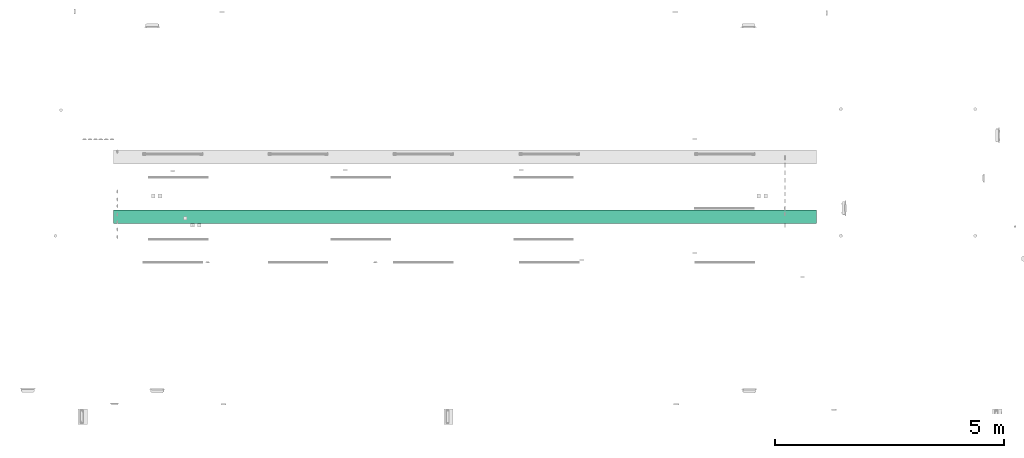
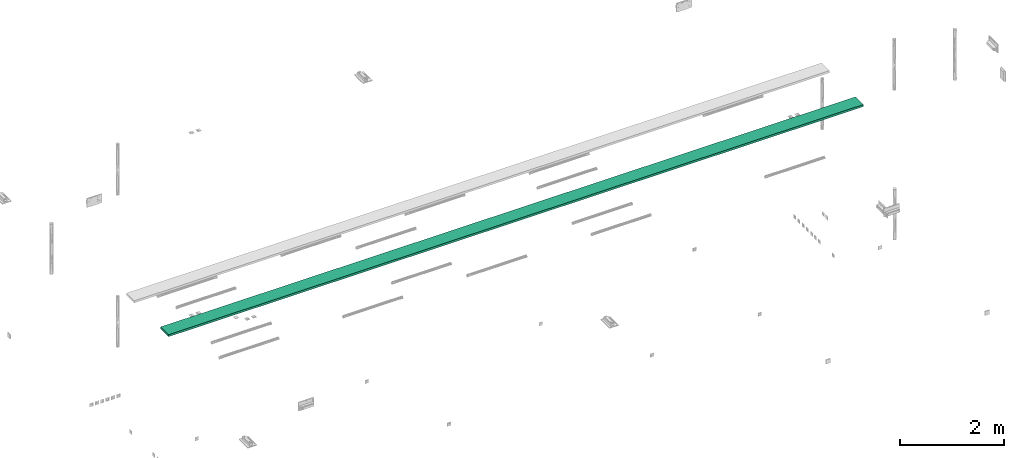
# One storey, part 2 of 146: 1 flow segment.
"""IFC2X3 building model written with IfcOpenShell, lengths in metres."""

import ifcopenshell
import ifcopenshell.guid

model = None  # the IFC model being written
_history = None  # IfcOwnerHistory: only IFC2X3 demands one
_inside = {}  # id of a spatial element -> (the spatial element, [elements in it])
_under = {}  # id of a project, library or spatial element -> (it, [spatial elements below it])
_declared = {}  # id of a project -> (the project, [libraries it declares])
_typed = {}  # id of a type object -> (the type object, [elements of that type])
_made_of = {}  # id of a material, layer set ... -> (it, [elements and type objects made of it])


def new_model(schema):
    """Start an empty IFC model of exactly this schema.

    Asked for "IFC4X3", IfcOpenShell would pick the latest addendum, in which some entities
    have other attributes; the version numbers below select the first issue.
    IFC2X3 requires an IfcOwnerHistory on every rooted entity: one is made here for all.
    """
    global model, _history
    if schema == "IFC4X3":
        model = ifcopenshell.file(schema_version=(4, 3, 0, 0))
    else:
        model = ifcopenshell.file(schema=schema)
    _inside.clear()
    _under.clear()
    _declared.clear()
    _typed.clear()
    _made_of.clear()
    _history = None
    if model.schema == "IFC2X3":
        org = make("IfcOrganization", Name="unknown")
        user = make(
            "IfcPersonAndOrganization",
            ThePerson=make("IfcPerson", FamilyName="unknown"),
            TheOrganization=org,
        )
        app = make(
            "IfcApplication",
            ApplicationDeveloper=org,
            Version="unknown",
            ApplicationFullName="unknown",
            ApplicationIdentifier="unknown",
        )
        _history = make(
            "IfcOwnerHistory",
            OwningUser=user,
            OwningApplication=app,
            ChangeAction="ADDED",
            CreationDate=0,
        )
    return model


def make(cls, **values):
    """One entity of the class cls with the attributes given. An attribute that is None is left unset."""
    return model.create_entity(
        cls, **{name: value for name, value in values.items() if value is not None}
    )


def entity(cls, *values):
    """Any entity or typed value of the class cls, its attributes in the order of the schema. None: left unset."""
    e = model.create_entity(cls)
    for i, value in enumerate(values):
        if value is not None:
            e[i] = value
    return e


def rooted(cls, **values):
    """An entity with a GlobalId (a new one), such as an element, a storey or a relation."""
    return make(cls, GlobalId=ifcopenshell.guid.new(), OwnerHistory=_history, **values)


def si_unit(unit_type, name, prefix=None):
    """IfcSIUnit, for example si_unit("LENGTHUNIT", "METRE", prefix="MILLI")."""
    return make("IfcSIUnit", UnitType=unit_type, Prefix=prefix, Name=name)


def converted_unit(unit_type, name, factor, base, dimensions=None, offset=None):
    """IfcConversionBasedUnit, such as the inch: factor (a typed value) times the base unit."""
    return make(
        "IfcConversionBasedUnit"
        if offset is None
        else "IfcConversionBasedUnitWithOffset",
        ConversionOffset=offset,
        Dimensions=None
        if dimensions is None
        else entity("IfcDimensionalExponents", *dimensions),
        UnitType=unit_type,
        Name=name,
        ConversionFactor=make(
            "IfcMeasureWithUnit", ValueComponent=factor, UnitComponent=base
        ),
    )


def derived_unit(unit_type, elements):
    """IfcDerivedUnit: a product of units, each with its exponent."""
    return make(
        "IfcDerivedUnit",
        Elements=[
            make("IfcDerivedUnitElement", Unit=unit, Exponent=power)
            for unit, power in elements
        ],
        UnitType=unit_type,
    )


def assignment(units):
    """IfcUnitAssignment: the units of a project."""
    return None if units is None else make("IfcUnitAssignment", Units=units)


def point(xyz):
    """IfcCartesianPoint."""
    return None if xyz is None else make("IfcCartesianPoint", Coordinates=xyz)


def direction(xyz):
    """IfcDirection."""
    return None if xyz is None else make("IfcDirection", DirectionRatios=xyz)


def frame(location, z_axis=None, x_axis=None):
    """IfcAxis2Placement3D, a coordinate frame: its origin and axes. An axis left out is left unset."""
    return make(
        "IfcAxis2Placement3D",
        Location=point(location),
        Axis=direction(z_axis),
        RefDirection=direction(x_axis),
    )


def frame_2d(location, x_axis=None):
    """IfcAxis2Placement2D, a coordinate frame in the plane: its origin and x axis."""
    return make(
        "IfcAxis2Placement2D", Location=point(location), RefDirection=direction(x_axis)
    )


def origin():
    """The frame at (0, 0, 0) with its axes left unset."""
    return frame((0.0, 0.0, 0.0))


def origin_2d_with_axis():
    """The frame at (0, 0) in the plane with the x axis (1, 0) written out."""
    return frame_2d((0.0, 0.0), x_axis=(1.0, 0.0))


def place(relative_to, where):
    """IfcLocalPlacement: puts the frame where relative to a parent placement (None: the world)."""
    return make(
        "IfcLocalPlacement", PlacementRelTo=relative_to, RelativePlacement=where
    )


def context(
    kind, dimensions, precision=None, world=None, true_north=None, identifier=None
):
    """IfcGeometricRepresentationContext, for example the 3D "Model" context."""
    return make(
        "IfcGeometricRepresentationContext",
        ContextIdentifier=identifier,
        ContextType=kind,
        CoordinateSpaceDimension=dimensions,
        Precision=precision,
        WorldCoordinateSystem=world,
        TrueNorth=true_north,
    )


def subcontext(parent, identifier, kind, view, scale=None):
    """IfcGeometricRepresentationSubContext, for example "Body" below "Model"."""
    return make(
        "IfcGeometricRepresentationSubContext",
        ContextIdentifier=identifier,
        ContextType=kind,
        ParentContext=parent,
        TargetScale=scale,
        TargetView=view,
    )


def project(units=None, contexts=None):
    """IfcProject with its units and contexts."""
    return rooted(
        "IfcProject",
        Name="project",
        RepresentationContexts=contexts,
        UnitsInContext=assignment(units),
    )


def spatial(cls, under=None, at=None, **own):
    """A site, building, storey or space (cls), placed at a placement, below another one or the project."""
    s = rooted(cls, ObjectPlacement=at, **own)
    if under is not None:
        _under.setdefault(under.id(), (under, []))[1].append(s)
    return s


def profile(cls, at=None, kind="AREA", **sizes):
    """A parametric profile (cls). Its sizes go by their IFC names, for example OverallWidth=200.0."""
    return make(cls, ProfileType=kind, Position=at, **sizes)


def rectangle(**sizes):
    """IfcRectangleProfileDef."""
    return profile("IfcRectangleProfileDef", **sizes)


def extrude(swept, where, along, depth):
    """IfcExtrudedAreaSolid: the profile swept, set in the frame where, extruded along a direction by depth."""
    return make(
        "IfcExtrudedAreaSolid",
        SweptArea=swept,
        Position=where,
        ExtrudedDirection=direction(along),
        Depth=depth,
    )


def shape(context_of_items, identifier, shape_type, items):
    """IfcShapeRepresentation: the items that make up one representation, for example the "Body"."""
    return make(
        "IfcShapeRepresentation",
        ContextOfItems=context_of_items,
        RepresentationIdentifier=identifier,
        RepresentationType=shape_type,
        Items=items,
    )


def made_of(thing, what):
    """Note that an element or type object is made of a material, layer set ...; save() writes the relation."""
    if what is not None:
        _made_of.setdefault(what.id(), (what, []))[1].append(thing)
    return thing


def type_object(cls, material=None, **own):
    """A type object (cls), such as IfcWallType, which elements share."""
    return made_of(rooted(cls, **own), material)


def element(
    cls,
    number,
    at=None,
    inside=None,
    cuts=None,
    type_object=None,
    material=None,
    context=None,
    identifier="Body",
    shape_type=None,
    held_by="IfcProductDefinitionShape",
    body=None,
    shapes=None,
    **own,
):
    """One element of the class cls, such as IfcWall. Its Tag is "e" and its number.

    at: its placement. inside: the storey or other place that contains it. cuts: it is an
    opening in that element (IfcRelVoidsElement). A single representation is given by context,
    identifier, shape_type and body (its items); several are given by shapes. held_by: the class
    of the entity that holds the representations. save() writes the other relations.
    """
    e = rooted(cls, Tag="e%d" % number, ObjectPlacement=at, **own)
    if body is not None:
        shapes = [shape(context, identifier, shape_type, body)]
    if shapes is not None:
        e.Representation = make(held_by, Representations=shapes)
    if inside is not None:
        _inside.setdefault(inside.id(), (inside, []))[1].append(e)
    if cuts is not None:
        rooted(
            "IfcRelVoidsElement", RelatingBuildingElement=cuts, RelatedOpeningElement=e
        )
    if type_object is not None:
        _typed.setdefault(type_object.id(), (type_object, []))[1].append(e)
    return made_of(e, material)


def aggregate(whole, parts):
    """IfcRelAggregates: a whole, such as a stair, and the parts it consists of."""
    return rooted("IfcRelAggregates", RelatingObject=whole, RelatedObjects=parts)


def save(model, path):
    """Write the relations noted so far, then the file.

    IfcRelAggregates (storeys below a building ...), IfcRelContainedInSpatialStructure (elements
    in a storey), IfcRelDefinesByType, IfcRelAssociatesMaterial and IfcRelDeclares: one each for
    every whole, place, type object, material and project.
    """
    for whole, parts in _under.values():
        aggregate(whole, parts)
    for where, things in _inside.values():
        rooted(
            "IfcRelContainedInSpatialStructure",
            RelatedElements=things,
            RelatingStructure=where,
        )
    for kind, things in _typed.values():
        rooted("IfcRelDefinesByType", RelatedObjects=things, RelatingType=kind)
    for what, things in _made_of.values():
        rooted("IfcRelAssociatesMaterial", RelatedObjects=things, RelatingMaterial=what)
    for by, libraries in _declared.values():
        rooted("IfcRelDeclares", RelatingContext=by, RelatedDefinitions=libraries)
    model.write(path)


model = new_model("IFC2X3")

# Units and contexts
model_context = context("Model", 3, precision=1e-05, world=origin(), true_north=direction((6.12303176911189e-17, 1.0)))
body_context = subcontext(model_context, "Body", "Model", "MODEL_VIEW")
ifc_project = project(units=[si_unit("LENGTHUNIT", "METRE"), si_unit("AREAUNIT", "SQUARE_METRE"), si_unit("VOLUMEUNIT", "CUBIC_METRE"), converted_unit("PLANEANGLEUNIT", "DEGREE", entity("IfcRatioMeasure", 0.0174532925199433), si_unit("PLANEANGLEUNIT", "RADIAN"), dimensions=[0, 0, 0, 0, 0, 0, 0]), si_unit("MASSUNIT", "GRAM", prefix="KILO"), derived_unit("MASSDENSITYUNIT", [(si_unit("MASSUNIT", "GRAM", prefix="KILO"), 1), (si_unit("LENGTHUNIT", "METRE"), -3)]), si_unit("TIMEUNIT", "SECOND"), si_unit("FREQUENCYUNIT", "HERTZ"), si_unit("THERMODYNAMICTEMPERATUREUNIT", "DEGREE_CELSIUS"), derived_unit("THERMALTRANSMITTANCEUNIT", [(si_unit("MASSUNIT", "GRAM", prefix="KILO"), 1), (si_unit("THERMODYNAMICTEMPERATUREUNIT", "KELVIN"), -1), (si_unit("TIMEUNIT", "SECOND"), -3)]), derived_unit("VOLUMETRICFLOWRATEUNIT", [(si_unit("LENGTHUNIT", "METRE"), 3), (si_unit("TIMEUNIT", "SECOND"), -1)]), si_unit("ELECTRICCURRENTUNIT", "AMPERE"), si_unit("ELECTRICVOLTAGEUNIT", "VOLT"), si_unit("POWERUNIT", "WATT"), si_unit("FORCEUNIT", "NEWTON"), si_unit("ILLUMINANCEUNIT", "LUX"), si_unit("LUMINOUSFLUXUNIT", "LUMEN"), si_unit("LUMINOUSINTENSITYUNIT", "CANDELA"), derived_unit("USERDEFINED", [(si_unit("MASSUNIT", "GRAM", prefix="KILO"), -1), (si_unit("LENGTHUNIT", "METRE"), -2), (si_unit("TIMEUNIT", "SECOND"), 3), (si_unit("LUMINOUSFLUXUNIT", "LUMEN"), 1)]), derived_unit("LINEARVELOCITYUNIT", [(si_unit("LENGTHUNIT", "METRE"), 1), (si_unit("TIMEUNIT", "SECOND"), -1)]), si_unit("PRESSUREUNIT", "PASCAL"), derived_unit("USERDEFINED", [(si_unit("LENGTHUNIT", "METRE"), -2), (si_unit("MASSUNIT", "GRAM", prefix="KILO"), 1), (si_unit("TIMEUNIT", "SECOND"), -2)])], contexts=[model_context])

# Site, building, storey
site_placement = place(None, origin())
site = spatial("IfcSite", under=ifc_project, at=site_placement, Name="Default", CompositionType="ELEMENT")
building_placement = place(site_placement, origin())
building = spatial("IfcBuilding", under=site, at=building_placement, CompositionType="ELEMENT")
storey_placement = place(building_placement, origin())
storey = spatial("IfcBuildingStorey", under=building, at=storey_placement, Name="S01", CompositionType="ELEMENT", Elevation=0.0)

# Flow segment
cable_carrier_segment_type = type_object("IfcCableCarrierSegmentType", Name="Cable Tray with Fittings:Chemins de câbles en treillis_Chemins de câbles en treillis", PredefinedType="NOTDEFINED")
flow_segment_placement = place(storey_placement, origin())
element("IfcFlowSegment", 1, at=flow_segment_placement, inside=storey, type_object=cable_carrier_segment_type, Name="Cable Tray with Fittings:Chemins de câbles en treillis_Chemins de câbles en treillis", ObjectType="Cable Tray with Fittings:Chemins de câbles en treillis_Chemins de câbles en treillis", context=body_context, shape_type="SweptSolid", body=[
    extrude(rectangle(XDim=0.300000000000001, YDim=15.3726905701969, at=origin_2d_with_axis()), frame((33.8040889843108, -189.396389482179, 3.53), z_axis=(0.0, 0.0, 1.0), x_axis=(0.0, 1.0, 0.0)), (0.0, 0.0, 1.0), 0.0499999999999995),
])

save(model, "model.ifc")
